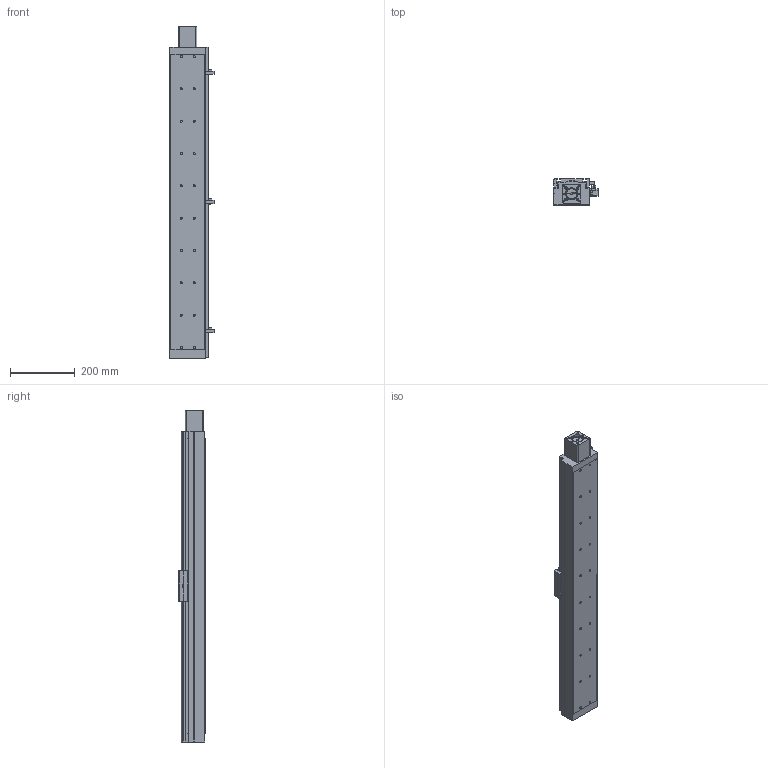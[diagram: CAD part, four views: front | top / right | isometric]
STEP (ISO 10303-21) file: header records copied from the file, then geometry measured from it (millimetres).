
FILE_DESCRIPTION((''),'2;1');
FILE_NAME('E:\libraries\UIA actuator library 2009\standard actuator\UIA110R12(15)DC\UIA110R12(15)DC-ball screw dia.20\UIA110R12(15)DC-_ _ _-R20_ _-M23 step file 20Apr16\UIA110R12(15)DC-800-R20_ _-M23-P13-C10-S.stp','2016-04-21T13:22:28',('h029'),(''),'Autodesk Inventor 11','Autodesk Inventor 11','');
FILE_SCHEMA(('AUTOMOTIVE_DESIGN { 1 0 10303 214 1 1 1 1 }'));
Length unit declared in the file: millimetre
Products named in the file (10): UIA110R12(15)DC-800, ball screw dia.20; body, UIA110R12(15)DC-800,ball screw dia.20; Carriage, UIA110R12(15)DC; Sen Switch, UIA110R12(15)DC; sensor rail, UIA110R12(15)DC-800; SOH-32C; SOH-32C-3; SOH-32C-1; SOH-32C-2; M23 motor mount
Assembly tree (9 placements, depth 3):
  UIA110R12(15)DC-800, ball screw dia.20
    body, UIA110R12(15)DC-800,ball screw dia.20
    Carriage, UIA110R12(15)DC
    Sen Switch, UIA110R12(15)DC
    sensor rail, UIA110R12(15)DC-800
    SOH-32C
      SOH-32C-3
      SOH-32C-1
      SOH-32C-2
    M23 motor mount
Bounding box: 136.5 x 81 x 1027 mm (x, y, z)
Volume: 7309373.8 mm3; surface area: 578310.5 mm2
Topology: 8 solids, 8 shells, 661 faces, 1752 edges, 1149 vertices
Faces by surface type: plane 419, cylinder 140, bspline 83, cone 19
Full cylindrical faces by diameter (mm): 2.459 x4, 3.242 x4, 4 x6, 4.5 x4, 5.5 x3, 6.35 x1, 6.5 x20, 7.5 x4, 9.5 x6, 10 x2, 10.5 x20, 12 x1, 25 x1, 32 x3, 37 x1, 38.1 x1, 42 x1, 42.01 x1, 43.5 x1
Entity records: 20900 total; most frequent: CARTESIAN_POINT 5235, DIRECTION 3159, ORIENTED_EDGE 3002, EDGE_CURVE 1501, AXIS2_PLACEMENT_3D 1078, VERTEX_POINT 1072, VECTOR 1003, LINE 1003
